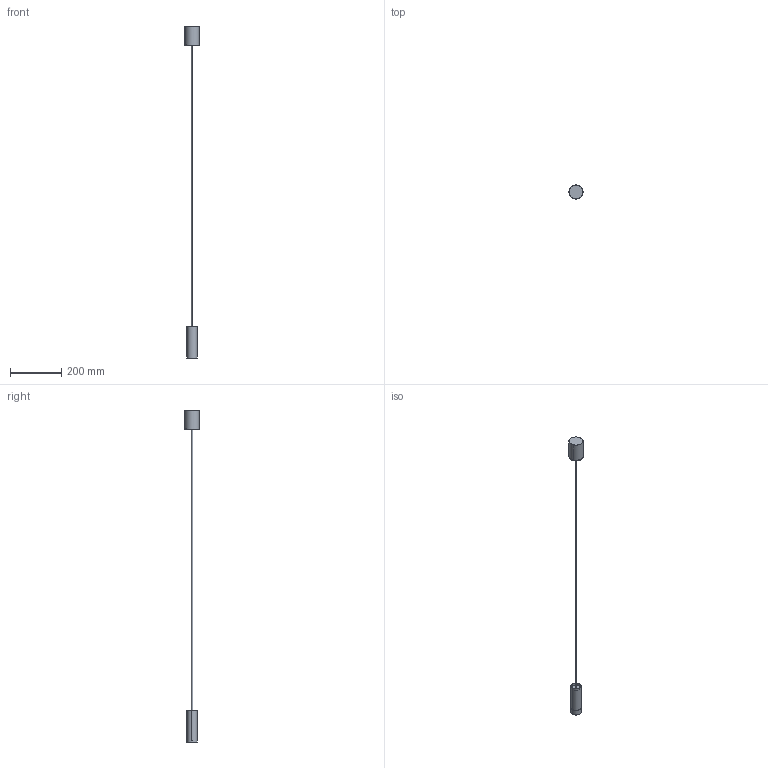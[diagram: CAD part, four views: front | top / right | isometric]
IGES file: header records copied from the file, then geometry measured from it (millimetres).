
Start section: SolidWorks IGES file using analytic representation for surfaces
Global section: file name: C:\Users\anna.bielnik\Desktop\modele 3D tymczasowe\FOURTY\FOURTY S zwis\FORTY ZWIS s PM.IGS; native system: SolidWorks 2023; preprocessor: SolidWorks 2023; author: anna.bielnik; date: 230623.132803; units: millimetre
Bounding box: 54.99 x 54.99 x 1300 mm (x, y, z)
Surface area: 80651.5 mm2 (no closed solid volume)
Topology: 0 solids, 0 shells, 50 faces, 1258 edges, 1258 vertices
Faces by surface type: revolution 35, bspline 15
